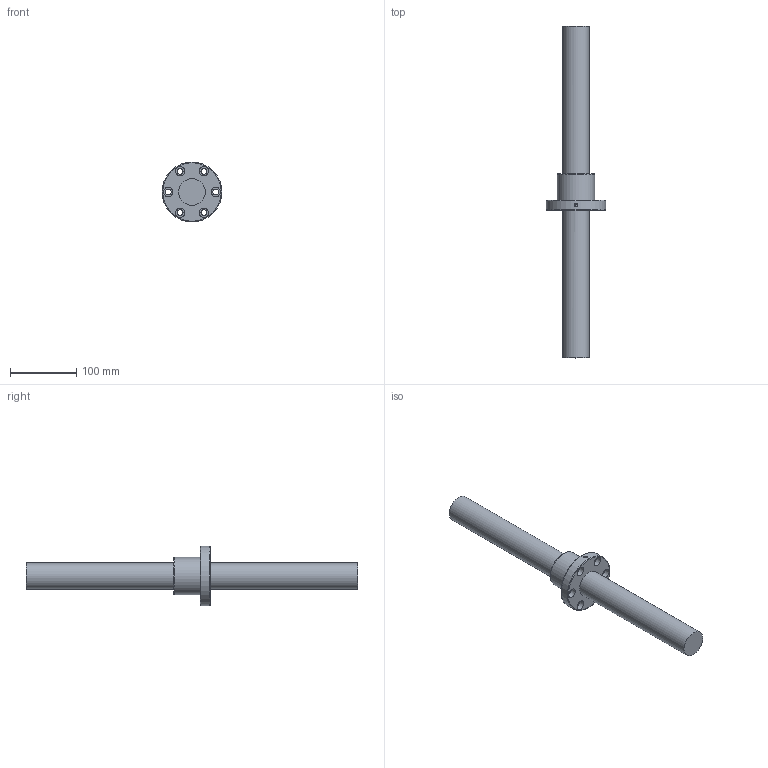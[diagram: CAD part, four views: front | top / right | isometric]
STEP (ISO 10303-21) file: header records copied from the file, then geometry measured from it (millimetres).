
FILE_DESCRIPTION (( 'STEP AP203' ), '1' );
FILE_NAME ('SFNI4005.STEP', '2023-06-06T03:44:14', ( '' ), ( '' ), 'SwSTEP 2.0', 'SolidWorks 2022', '' );
FILE_SCHEMA (( 'CONFIG_CONTROL_DESIGN' ));
Length unit declared in the file: millimetre
Products named in the file (1): SFNI4005
Bounding box: 90 x 500 x 90 mm (x, y, z)
Volume: 742781.9 mm3; surface area: 96344 mm2
Topology: 2 solids, 2 shells, 34 faces, 66 edges, 44 vertices
Faces by surface type: cylinder 19, plane 12, torus 3
Full cylindrical faces by diameter (mm): 4 x1, 5 x1, 9 x6, 14 x6, 40 x2, 56 x1, 90 x1
Entity records: 1131 total; most frequent: CARTESIAN_POINT 397, DIRECTION 145, ORIENTED_EDGE 82, EDGE_LOOP 80, AXIS2_PLACEMENT_3D 72, FACE_OUTER_BOUND 55, EDGE_CURVE 41, VERTEX_POINT 41
